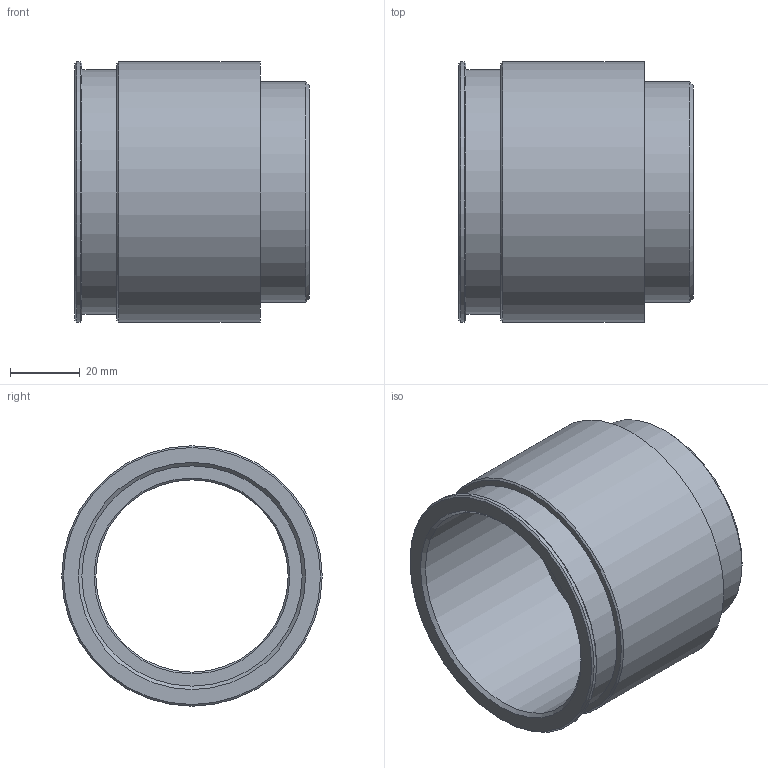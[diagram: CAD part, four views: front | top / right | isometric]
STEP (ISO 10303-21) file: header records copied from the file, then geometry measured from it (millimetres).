
FILE_DESCRIPTION( ( 'STEP AP214' ), '1' );
FILE_NAME( 'p:/temp/worker_3/temp/app_79_02018121420373940114555192d056f_000000_00_00_000000/format_0/6111-A63.stp', '2018-12-14T19:37:39', ( '' ), ( '' ), ' ', 'PARTsolutions', ' ' );
FILE_SCHEMA( ( 'AUTOMOTIVE_DESIGN { 1 0 10303 214 1 1 1 1 }' ) );
Length unit declared in the file: millimetre
Products named in the file (1): _6111-A63
Bounding box: 67 x 74.5 x 74.5 mm (x, y, z)
Volume: 77474.7 mm3; surface area: 32225.4 mm2
Topology: 1 solids, 1 shells, 18 faces, 30 edges, 18 vertices
Faces by surface type: plane 6, cone 6, cylinder 6
Full cylindrical faces by diameter (mm): 55 x1, 63 x2, 70 x1, 74.5 x2
Entity records: 528 total; most frequent: DIRECTION 74, CARTESIAN_POINT 55, AXIS2_PLACEMENT_3D 37, EDGE_LOOP 36, ORIENTED_EDGE 36, FACE_OUTER_BOUND 24, STYLED_ITEM 18, PRESENTATION_STYLE_ASSIGNMENT 18
